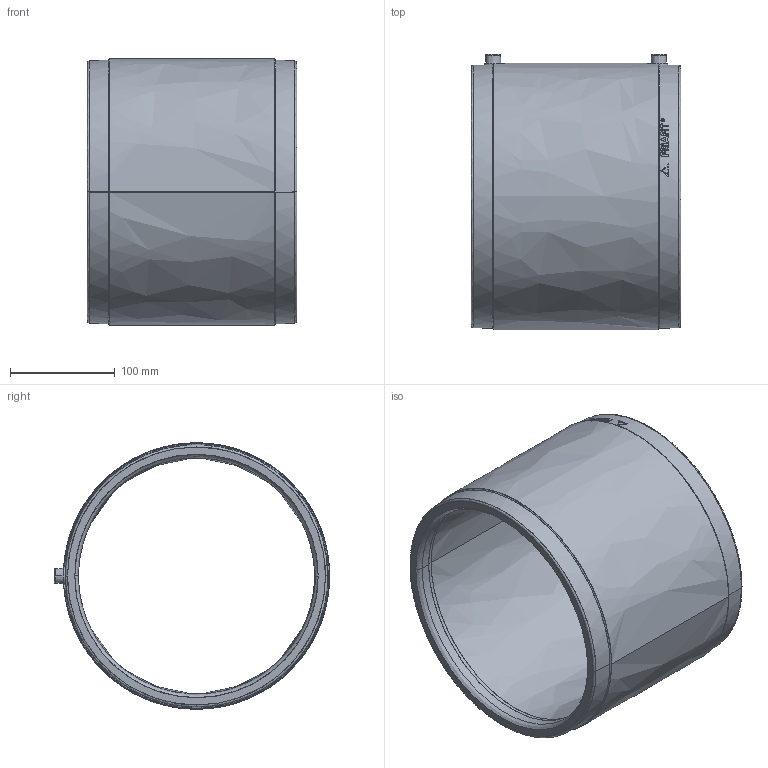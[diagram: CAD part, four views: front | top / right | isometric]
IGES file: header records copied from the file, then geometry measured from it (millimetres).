
Start section:  PTC IGES file: am_d225.igs
Global section: file name: am_d225.igs; native system: Pro/ENGINEER by Parametric Technology Corporation; preprocessor: 2011490; author: mtunjic; organization: Unknown; date: 20130729.163447; units: millimetre
Bounding box: 200 x 262.6 x 254 mm (x, y, z)
Surface area: 319840.3 mm2 (no closed solid volume)
Topology: 0 solids, 0 shells, 231 faces, 1080 edges, 1080 vertices
Faces by surface type: bspline 231
